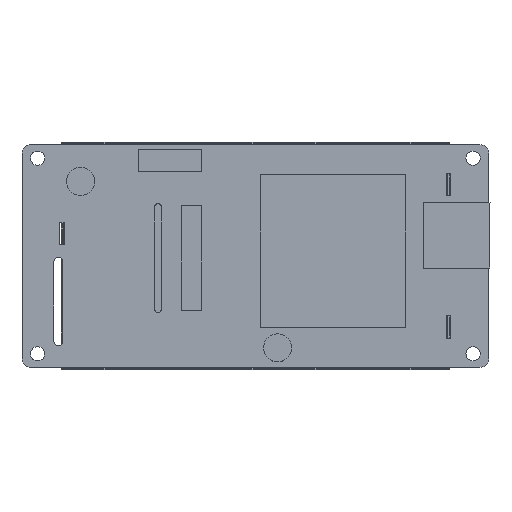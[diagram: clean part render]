
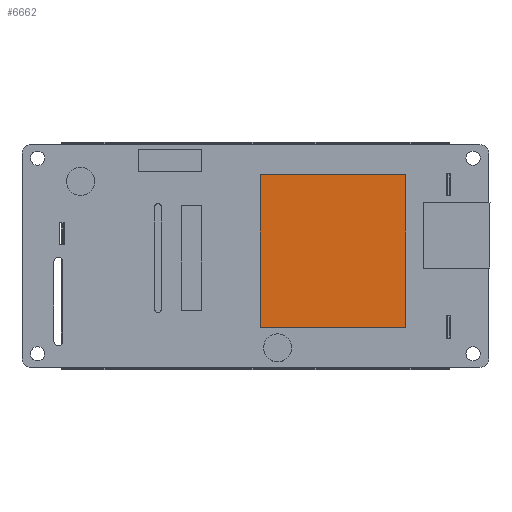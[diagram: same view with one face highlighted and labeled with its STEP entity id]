
A CAD part, top view. The second image highlights one B-rep face of the part: STEP entity #6662.
In plain terms, the highlighted planar face has unit normal (0, 0, 1).
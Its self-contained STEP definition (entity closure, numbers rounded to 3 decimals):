
#1914=DIRECTION('',(0.,-1.,0.));
#1915=VECTOR('',#1914,34.417);
#1916=CARTESIAN_POINT('',(-1.868,18.293,10.5));
#1917=LINE('',#1916,#1915);
#1918=DIRECTION('',(-1.,0.,0.));
#1919=VECTOR('',#1918,32.766);
#1920=CARTESIAN_POINT('',(30.898,18.293,10.5));
#1921=LINE('',#1920,#1919);
#1922=DIRECTION('',(0.,1.,0.));
#1923=VECTOR('',#1922,34.417);
#1924=CARTESIAN_POINT('',(30.898,-16.124,10.5));
#1925=LINE('',#1924,#1923);
#1926=DIRECTION('',(1.,0.,0.));
#1927=VECTOR('',#1926,32.766);
#1928=CARTESIAN_POINT('',(-1.868,-16.124,10.5));
#1929=LINE('',#1928,#1927);
#2970=CARTESIAN_POINT('',(-1.868,18.293,10.5));
#2971=CARTESIAN_POINT('',(-1.868,-16.124,10.5));
#2972=VERTEX_POINT('',#2970);
#2973=VERTEX_POINT('',#2971);
#2974=CARTESIAN_POINT('',(30.898,-16.124,10.5));
#2975=VERTEX_POINT('',#2974);
#2976=CARTESIAN_POINT('',(30.898,18.293,10.5));
#2977=VERTEX_POINT('',#2976);
#6651=CARTESIAN_POINT('',(-53.45,-25.08,10.5));
#6652=DIRECTION('',(0.,0.,1.));
#6653=DIRECTION('',(1.,0.,0.));
#6654=AXIS2_PLACEMENT_3D('',#6651,#6652,#6653);
#6655=PLANE('',#6654);
#6656=ORIENTED_EDGE('',*,*,#6575,.F.);
#6657=ORIENTED_EDGE('',*,*,#6597,.F.);
#6658=ORIENTED_EDGE('',*,*,#6618,.F.);
#6659=ORIENTED_EDGE('',*,*,#6638,.F.);
#6660=EDGE_LOOP('',(#6656,#6657,#6658,#6659));
#6661=FACE_OUTER_BOUND('',#6660,.F.);
#6575=EDGE_CURVE('',#2972,#2973,#1917,.T.);
#6597=EDGE_CURVE('',#2977,#2972,#1921,.T.);
#6618=EDGE_CURVE('',#2975,#2977,#1925,.T.);
#6638=EDGE_CURVE('',#2973,#2975,#1929,.T.);
#6662=ADVANCED_FACE('',(#6661),#6655,.T.);
